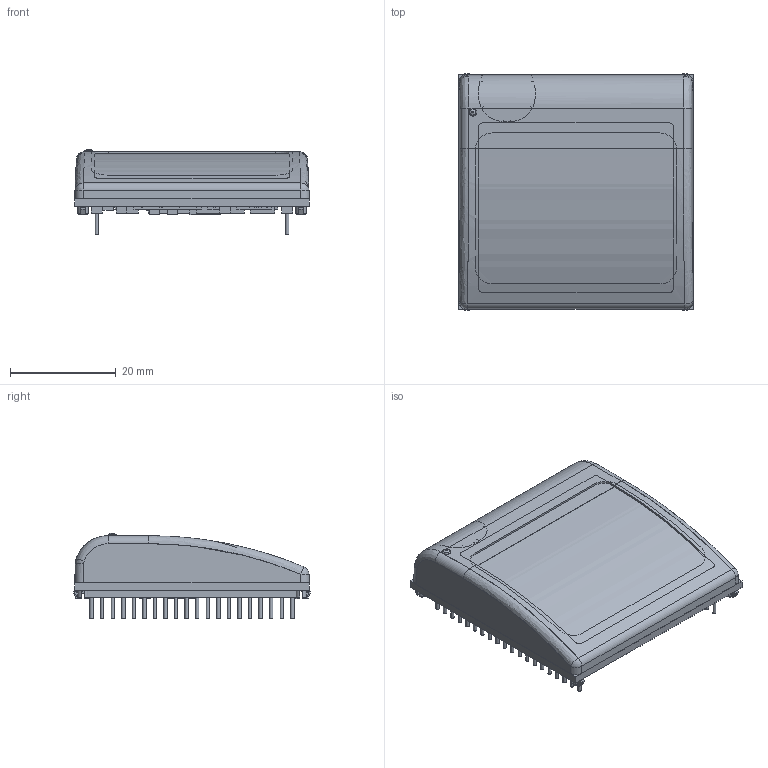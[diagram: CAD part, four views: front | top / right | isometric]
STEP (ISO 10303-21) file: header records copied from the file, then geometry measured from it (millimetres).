
FILE_DESCRIPTION((''),'2;1');
FILE_NAME('C:\Documents and Settings\ryanb\My Documents\Inventor Drawings\WiMinus\matchport assembly.stp','2007-02-08T16:17:16',('ryanb'),(''),'Autodesk Inventor 11','Autodesk Inventor 11','');
FILE_SCHEMA(('AUTOMOTIVE_DESIGN { 1 0 10303 214 1 1 1 1 }'));
Length unit declared in the file: inch
Products named in the file (27): Wi Minus assy; c__documents and settings_ryanb_my documents_schematics & pcbs_wi minus_lan-wi-minus-a-05h.emn; c__documents and settings_ryanb_my documents_schematics & pcbs_wi minus_lan-wi-minus-a-05h.emn_Outline; CC0402, CC0402_1; CC0805, CC0805_6; CC1206, CC1206_8; CC0603, CC0603_19; CC1210, CC1210_34; SOD523, SOD523_59; SAM20-FTMH-DV, SAM20-FTMH-DV_75; SOT23, SOT23_81; CRN8-EXB28V, CRN8-EXB28V_131; BGA14X14_80-184-45PAD, BGA14X14_80-184-45PAD_133; SC70-5, SC70-5_135; XTAL-OC-32, XTAL-OC-32_137; SOT223-6, SOT223-6_139; SOT23-5, SOT23-5_141; SOT143, SOT143_143; LLP8-LDA08C, LLP8-LDA08C_145; LGA44-9_6X9_6-0_7-PWP, LGA44-9_6X9_6-0_7-PWP_147; XTAL-CS10, XTAL-CS10_149; BGA6X8-8X10_80-48, BGA6X8-8X10_80-48_151; SOD-123, SOD-123_153; 16 pin 2 mm header; plastic cover; ufl; 110-377-r rev a
Assembly tree (135 placements, depth 3):
  Wi Minus assy
    c__documents and settings_ryanb_my documents_schematics & pcbs_wi minus_lan-wi-minus-a-05h.emn
      c__documents and settings_ryanb_my documents_schematics & pcbs_wi minus_lan-wi-minus-a-05h.emn_Outline
      CC0402, CC0402_1  x83
      CC0805, CC0805_6  x11
      CC1206, CC1206_8  x3
      CC0603, CC0603_19  x14
      CC1210, CC1210_34
      SOD523, SOD523_59
      SAM20-FTMH-DV, SAM20-FTMH-DV_75
      SOT23, SOT23_81  x2
      CRN8-EXB28V, CRN8-EXB28V_131
      BGA14X14_80-184-45PAD, BGA14X14_80-184-45PAD_133
      SC70-5, SC70-5_135
      XTAL-OC-32, XTAL-OC-32_137
      SOT223-6, SOT223-6_139
      SOT23-5, SOT23-5_141
      SOT143, SOT143_143
      LLP8-LDA08C, LLP8-LDA08C_145
      LGA44-9_6X9_6-0_7-PWP, LGA44-9_6X9_6-0_7-PWP_147
      XTAL-CS10, XTAL-CS10_149
      BGA6X8-8X10_80-48, BGA6X8-8X10_80-48_151
      SOD-123, SOD-123_153
      16 pin 2 mm header  x2
    plastic cover
    ufl
    110-377-r rev a
Bounding box: 44.45 x 44.81 x 16.27 mm (x, y, z)
Volume: 10772.1 mm3; surface area: 21147.7 mm2
Topology: 134 solids, 134 shells, 1454 faces, 3173 edges, 2084 vertices
Faces by surface type: plane 1080, cylinder 267, bspline 76, torus 18, sphere 12, cone 1
Full cylindrical faces by diameter (mm): 0.031 x1, 0.1 x1, 0.406 x12, 0.635 x80, 0.762 x40, 1.524 x1, 1.77 x1, 1.905 x4, 2.057 x4, 2.286 x4
Entity records: 28243 total; most frequent: CARTESIAN_POINT 9864, DIRECTION 3754, ORIENTED_EDGE 3252, EDGE_CURVE 1626, AXIS2_PLACEMENT_3D 1468, VERTEX_POINT 1123, EDGE_LOOP 1009, VECTOR 818
